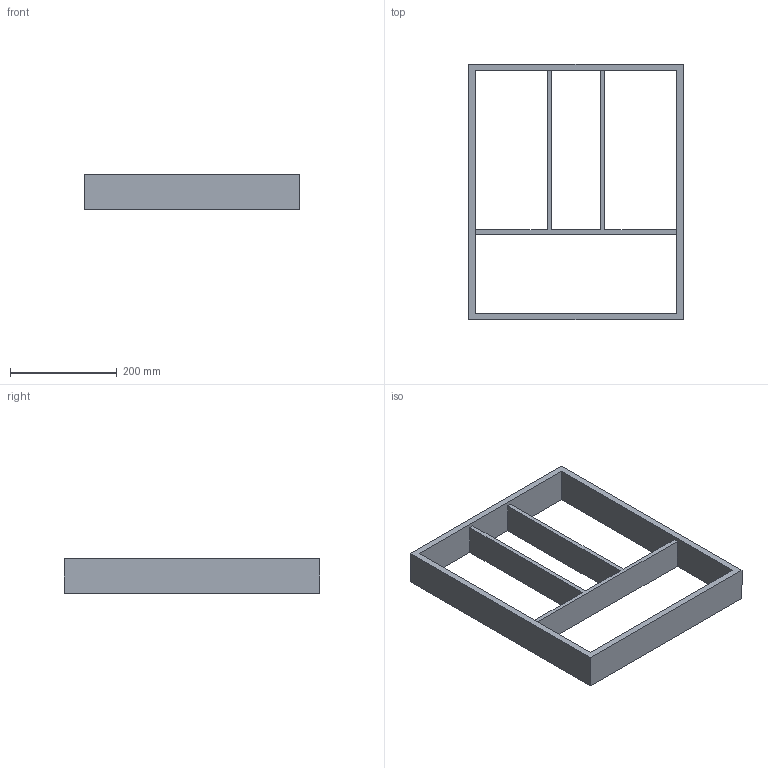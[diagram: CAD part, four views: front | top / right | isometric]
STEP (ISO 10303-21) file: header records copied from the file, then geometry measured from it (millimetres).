
FILE_DESCRIPTION (( 'STEP AP214' ), '1' );
FILE_NAME ('Vario Multi NL500_B500_19 mm_Buche.step', '2010-10-07T06:24:16', ( 'grass' ), ( '' ), 'SwSTEP 2.0', 'SolidWorks 2010', '' );
FILE_SCHEMA (( 'AUTOMOTIVE_DESIGN' ));
Length unit declared in the file: millimetre
Products named in the file (1): Vario Multi NL500_B500_19 mm_Buche
Bounding box: 402 x 479 x 65 mm (x, y, z)
Volume: 1781793.6 mm3; surface area: 388048 mm2
Topology: 1 solids, 1 shells, 19 faces, 60 edges, 40 vertices
Faces by surface type: plane 19
Entity records: 704 total; most frequent: ORIENTED_EDGE 120, CARTESIAN_POINT 120, DIRECTION 100, EDGE_CURVE 60, LINE 60, VECTOR 60, VERTEX_POINT 40, EDGE_LOOP 24
